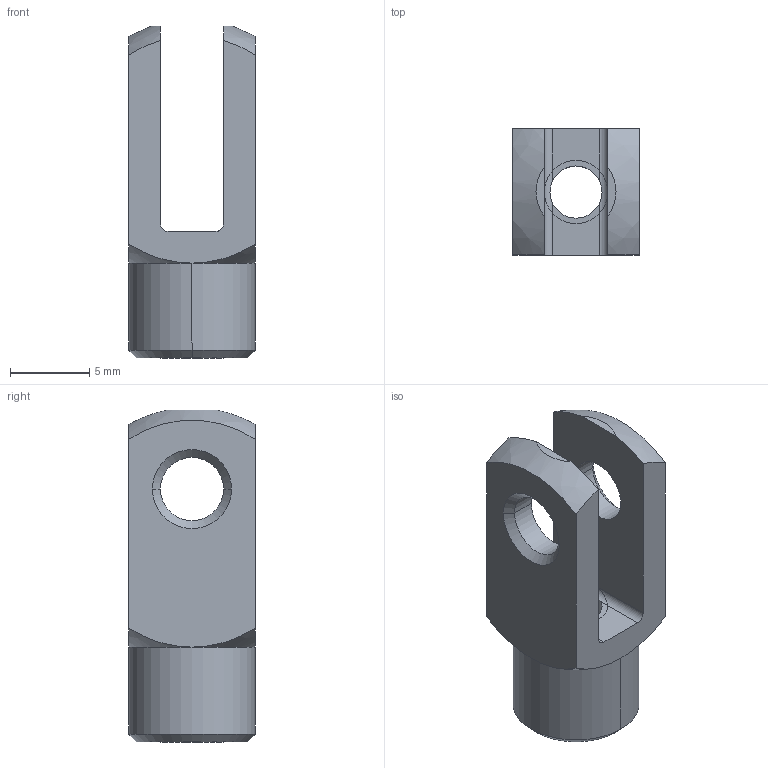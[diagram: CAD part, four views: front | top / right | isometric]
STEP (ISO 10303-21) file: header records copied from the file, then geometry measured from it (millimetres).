
FILE_DESCRIPTION((''),'2;1');
FILE_NAME('GK1-WDS_G4X8_DIN71752','2020-06-24T10:28:53',('15000593'),(''),'CREO PARAMETRIC BY PTC INC, 2019224','CREO PARAMETRIC BY PTC INC, 2019224','');
FILE_SCHEMA(('CONFIG_CONTROL_DESIGN'));
Length unit declared in the file: millimetre
Products named in the file (1): GK1-WDS_G4X8_DIN71752
Bounding box: 8 x 8 x 21 mm (x, y, z)
Volume: 698.3 mm3; surface area: 974.4 mm2
Topology: 1 solids, 2 shells, 37 faces, 98 edges, 62 vertices
Faces by surface type: cylinder 12, plane 11, cone 8, sphere 6
Entity records: 1261 total; most frequent: CARTESIAN_POINT 257, DIRECTION 220, ORIENTED_EDGE 188, EDGE_CURVE 98, AXIS2_PLACEMENT_3D 92, VERTEX_POINT 62, CIRCLE 54, EDGE_LOOP 42
